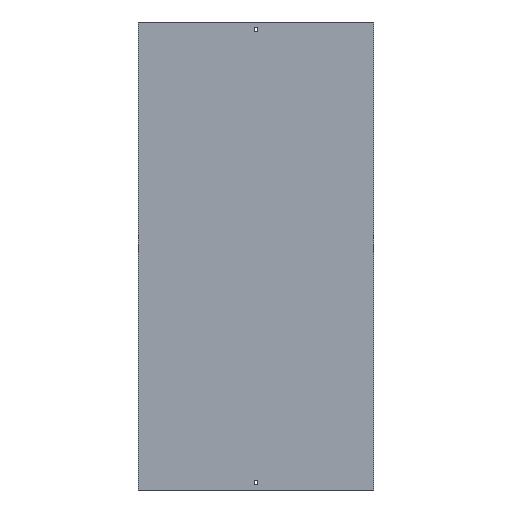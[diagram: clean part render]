
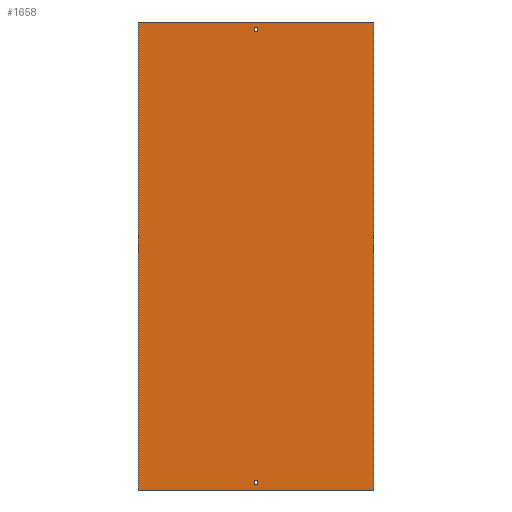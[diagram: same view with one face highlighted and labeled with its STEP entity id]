
A CAD part, front view. The second image highlights one B-rep face of the part: STEP entity #1658.
In plain terms, the highlighted planar face has unit normal (0, -1, 0).
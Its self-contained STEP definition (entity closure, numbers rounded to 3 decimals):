
#10 = VECTOR ( 'NONE', #617, 1000. ) ;
#24 = FACE_BOUND ( 'NONE', #244, .T. ) ;
#27 = ORIENTED_EDGE ( 'NONE', *, *, #316, .T. ) ;
#32 = VECTOR ( 'NONE', #1649, 1000. ) ;
#33 = CARTESIAN_POINT ( 'NONE',  ( 3.25, 0., 488. ) ) ;
#63 = ORIENTED_EDGE ( 'NONE', *, *, #875, .T. ) ;
#65 = VECTOR ( 'NONE', #637, 1000. ) ;
#99 = CARTESIAN_POINT ( 'NONE',  ( -3.25, 0., -488. ) ) ;
#113 = LINE ( 'NONE', #226, #32 ) ;
#137 = VECTOR ( 'NONE', #655, 1000. ) ;
#140 = VECTOR ( 'NONE', #1563, 1000. ) ;
#159 = CARTESIAN_POINT ( 'NONE',  ( 252., 0., 500. ) ) ;
#185 = EDGE_CURVE ( 'NONE', #806, #397, #534, .T. ) ;
#226 = CARTESIAN_POINT ( 'NONE',  ( -3.25, 0., -479. ) ) ;
#228 = VERTEX_POINT ( 'NONE', #450 ) ;
#232 = LINE ( 'NONE', #99, #10 ) ;
#241 = EDGE_CURVE ( 'NONE', #988, #228, #1620, .T. ) ;
#244 = EDGE_LOOP ( 'NONE', ( #1480, #571, #63, #27 ) ) ;
#265 = FACE_BOUND ( 'NONE', #814, .T. ) ;
#271 = EDGE_CURVE ( 'NONE', #1403, #988, #558, .T. ) ;
#286 = VECTOR ( 'NONE', #1075, 1000. ) ;
#288 = DIRECTION ( 'NONE',  ( -1., 0., 0. ) ) ;
#289 = VERTEX_POINT ( 'NONE', #33 ) ;
#307 = CARTESIAN_POINT ( 'NONE',  ( -3.25, 0., 488. ) ) ;
#316 = EDGE_CURVE ( 'NONE', #943, #806, #232, .T. ) ;
#320 = CARTESIAN_POINT ( 'NONE',  ( -252., 0., -500. ) ) ;
#390 = VECTOR ( 'NONE', #773, 1000. ) ;
#397 = VERTEX_POINT ( 'NONE', #481 ) ;
#406 = CARTESIAN_POINT ( 'NONE',  ( 3.25, 0., 479. ) ) ;
#408 = CARTESIAN_POINT ( 'NONE',  ( -3.25, 0., -488. ) ) ;
#416 = VECTOR ( 'NONE', #288, 1000. ) ;
#417 = DIRECTION ( 'NONE',  ( -1., 0., 0. ) ) ;
#423 = ORIENTED_EDGE ( 'NONE', *, *, #948, .F. ) ;
#428 = VERTEX_POINT ( 'NONE', #1576 ) ;
#430 = ORIENTED_EDGE ( 'NONE', *, *, #1352, .F. ) ;
#435 = EDGE_LOOP ( 'NONE', ( #1207, #430, #1311, #1112 ) ) ;
#450 = CARTESIAN_POINT ( 'NONE',  ( 252., 0., -500. ) ) ;
#459 = VERTEX_POINT ( 'NONE', #406 ) ;
#466 = VECTOR ( 'NONE', #717, 1000. ) ;
#481 = CARTESIAN_POINT ( 'NONE',  ( -3.25, 0., -479. ) ) ;
#534 = LINE ( 'NONE', #408, #1523 ) ;
#537 = LINE ( 'NONE', #921, #416 ) ;
#558 = LINE ( 'NONE', #1465, #922 ) ;
#567 = EDGE_CURVE ( 'NONE', #428, #459, #1625, .T. ) ;
#571 = ORIENTED_EDGE ( 'NONE', *, *, #741, .T. ) ;
#574 = CARTESIAN_POINT ( 'NONE',  ( -252., 0., -500. ) ) ;
#599 = LINE ( 'NONE', #732, #65 ) ;
#617 = DIRECTION ( 'NONE',  ( -1., 0., 0. ) ) ;
#637 = DIRECTION ( 'NONE',  ( 1., 0., 0. ) ) ;
#655 = DIRECTION ( 'NONE',  ( 0., 0., -1. ) ) ;
#710 = CARTESIAN_POINT ( 'NONE',  ( 252., 0., 500. ) ) ;
#717 = DIRECTION ( 'NONE',  ( 1., 0., 0. ) ) ;
#732 = CARTESIAN_POINT ( 'NONE',  ( -252., 0., 500. ) ) ;
#741 = EDGE_CURVE ( 'NONE', #397, #1433, #113, .T. ) ;
#757 = LINE ( 'NONE', #1674, #390 ) ;
#771 = LINE ( 'NONE', #159, #140 ) ;
#773 = DIRECTION ( 'NONE',  ( 0., 0., -1. ) ) ;
#805 = EDGE_CURVE ( 'NONE', #1418, #428, #757, .T. ) ;
#806 = VERTEX_POINT ( 'NONE', #1280 ) ;
#807 = LINE ( 'NONE', #1063, #137 ) ;
#814 = EDGE_LOOP ( 'NONE', ( #1001, #1483, #423, #1535 ) ) ;
#875 = EDGE_CURVE ( 'NONE', #1433, #943, #807, .T. ) ;
#891 = DIRECTION ( 'NONE',  ( 0., 1., 0. ) ) ;
#905 = CARTESIAN_POINT ( 'NONE',  ( 3.25, 0., 488. ) ) ;
#912 = LINE ( 'NONE', #905, #1224 ) ;
#914 = EDGE_CURVE ( 'NONE', #459, #289, #912, .T. ) ;
#917 = DIRECTION ( 'NONE',  ( 0., 0., 1. ) ) ;
#921 = CARTESIAN_POINT ( 'NONE',  ( -3.25, 0., 488. ) ) ;
#922 = VECTOR ( 'NONE', #1342, 1000. ) ;
#943 = VERTEX_POINT ( 'NONE', #1183 ) ;
#948 = EDGE_CURVE ( 'NONE', #289, #1418, #537, .T. ) ;
#965 = CARTESIAN_POINT ( 'NONE',  ( 3.25, 0., -479. ) ) ;
#988 = VERTEX_POINT ( 'NONE', #320 ) ;
#1001 = ORIENTED_EDGE ( 'NONE', *, *, #567, .F. ) ;
#1063 = CARTESIAN_POINT ( 'NONE',  ( 3.25, 0., -488. ) ) ;
#1075 = DIRECTION ( 'NONE',  ( 1., 0., 0. ) ) ;
#1112 = ORIENTED_EDGE ( 'NONE', *, *, #271, .T. ) ;
#1160 = PLANE ( 'NONE',  #1473 ) ;
#1183 = CARTESIAN_POINT ( 'NONE',  ( 3.25, 0., -488. ) ) ;
#1207 = ORIENTED_EDGE ( 'NONE', *, *, #241, .T. ) ;
#1224 = VECTOR ( 'NONE', #1462, 1000. ) ;
#1280 = CARTESIAN_POINT ( 'NONE',  ( -3.25, 0., -488. ) ) ;
#1307 = FACE_OUTER_BOUND ( 'NONE', #435, .T. ) ;
#1311 = ORIENTED_EDGE ( 'NONE', *, *, #1491, .F. ) ;
#1342 = DIRECTION ( 'NONE',  ( 0., 0., -1. ) ) ;
#1352 = EDGE_CURVE ( 'NONE', #1401, #228, #771, .T. ) ;
#1374 = CARTESIAN_POINT ( 'NONE',  ( -3.25, 0., 479. ) ) ;
#1401 = VERTEX_POINT ( 'NONE', #710 ) ;
#1403 = VERTEX_POINT ( 'NONE', #1621 ) ;
#1418 = VERTEX_POINT ( 'NONE', #307 ) ;
#1433 = VERTEX_POINT ( 'NONE', #965 ) ;
#1449 = CARTESIAN_POINT ( 'NONE',  ( -252., 0., 500. ) ) ;
#1462 = DIRECTION ( 'NONE',  ( 0., 0., 1. ) ) ;
#1465 = CARTESIAN_POINT ( 'NONE',  ( -252., 0., 500. ) ) ;
#1473 = AXIS2_PLACEMENT_3D ( 'NONE', #1449, #891, #417 ) ;
#1480 = ORIENTED_EDGE ( 'NONE', *, *, #185, .T. ) ;
#1483 = ORIENTED_EDGE ( 'NONE', *, *, #805, .F. ) ;
#1491 = EDGE_CURVE ( 'NONE', #1403, #1401, #599, .T. ) ;
#1523 = VECTOR ( 'NONE', #917, 1000. ) ;
#1535 = ORIENTED_EDGE ( 'NONE', *, *, #914, .F. ) ;
#1563 = DIRECTION ( 'NONE',  ( 0., 0., -1. ) ) ;
#1576 = CARTESIAN_POINT ( 'NONE',  ( -3.25, 0., 479. ) ) ;
#1620 = LINE ( 'NONE', #574, #286 ) ;
#1621 = CARTESIAN_POINT ( 'NONE',  ( -252., 0., 500. ) ) ;
#1625 = LINE ( 'NONE', #1374, #466 ) ;
#1649 = DIRECTION ( 'NONE',  ( 1., 0., 0. ) ) ;
#1658 = ADVANCED_FACE ( 'NONE', ( #1307, #265, #24 ), #1160, .F. ) ;
#1674 = CARTESIAN_POINT ( 'NONE',  ( -3.25, 0., 488. ) ) ;
